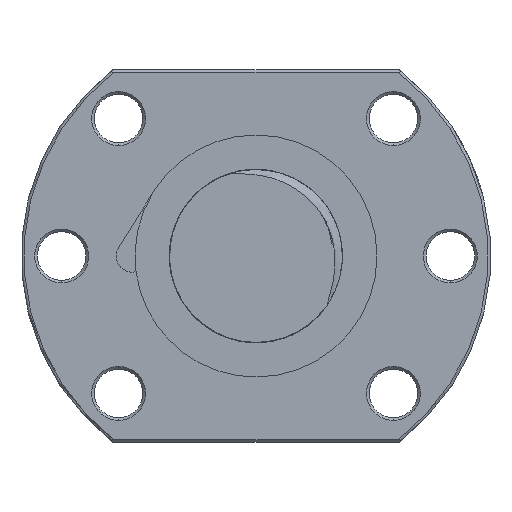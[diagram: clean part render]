
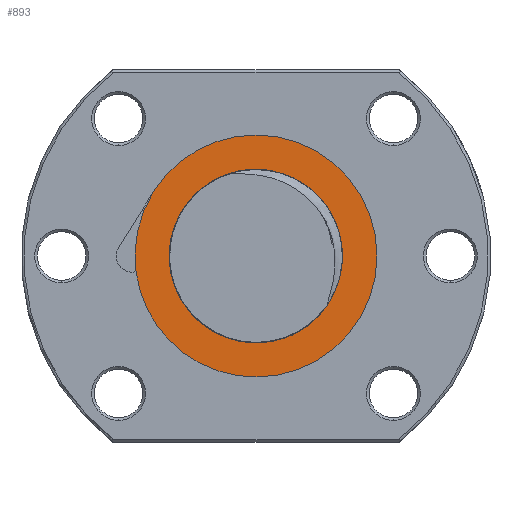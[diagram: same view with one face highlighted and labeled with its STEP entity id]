
A CAD part, left-side view. The second image highlights one B-rep face of the part: STEP entity #893.
In plain terms, the highlighted planar face has unit normal (-1, 0, 0).
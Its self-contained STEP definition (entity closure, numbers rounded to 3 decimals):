
#860 = ORIENTED_EDGE ( 'NONE', *, *, #15437, .T. ) ;
#892 = EDGE_LOOP ( 'NONE', ( #897, #901, #915, #860 ) ) ;
#893 = ADVANCED_FACE ( 'NONE', ( #17393, #17065 ), #17062, .T. ) ;
#894 = EDGE_CURVE ( 'NONE', #13481, #1001, #17350, .T. ) ;
#896 = ORIENTED_EDGE ( 'NONE', *, *, #894, .F. ) ;
#897 = ORIENTED_EDGE ( 'NONE', *, *, #917, .T. ) ;
#901 = ORIENTED_EDGE ( 'NONE', *, *, #1697, .T. ) ;
#904 = EDGE_LOOP ( 'NONE', ( #906, #896, #919 ) ) ;
#906 = ORIENTED_EDGE ( 'NONE', *, *, #1004, .F. ) ;
#915 = ORIENTED_EDGE ( 'NONE', *, *, #1737, .T. ) ;
#917 = EDGE_CURVE ( 'NONE', #15442, #1698, #17091, .T. ) ;
#919 = ORIENTED_EDGE ( 'NONE', *, *, #15215, .F. ) ;
#1001 = VERTEX_POINT ( 'NONE', #17318 ) ;
#1004 = EDGE_CURVE ( 'NONE', #1001, #15213, #17131, .T. ) ;
#1697 = EDGE_CURVE ( 'NONE', #1698, #1743, #15648, .T. ) ;
#1698 = VERTEX_POINT ( 'NONE', #15644 ) ;
#1737 = EDGE_CURVE ( 'NONE', #1743, #1747, #15512, .T. ) ;
#1743 = VERTEX_POINT ( 'NONE', #15602 ) ;
#1747 = VERTEX_POINT ( 'NONE', #15654 ) ;
#13481 = VERTEX_POINT ( 'NONE', #18627 ) ;
#15213 = VERTEX_POINT ( 'NONE', #18679 ) ;
#15215 = EDGE_CURVE ( 'NONE', #15213, #13481, #18678, .T. ) ;
#15437 = EDGE_CURVE ( 'NONE', #1747, #15442, #19017, .T. ) ;
#15442 = VERTEX_POINT ( 'NONE', #19012 ) ;
#15508 = DIRECTION ( 'NONE',  ( 0., 0., 1. ) ) ;
#15509 = DIRECTION ( 'NONE',  ( -1., 0., 0. ) ) ;
#15510 = CARTESIAN_POINT ( 'NONE',  ( -65.8, 0., 0. ) ) ;
#15511 = AXIS2_PLACEMENT_3D ( 'NONE', #15510, #15509, #15508 ) ;
#15512 = CIRCLE ( 'NONE', #15511, 22.416 ) ;
#15602 = CARTESIAN_POINT ( 'NONE',  ( -65.8, 0., -22.416 ) ) ;
#15644 = CARTESIAN_POINT ( 'NONE',  ( -65.8, 22.227, -2.904 ) ) ;
#15645 = DIRECTION ( 'NONE',  ( 0., 0., 1. ) ) ;
#15646 = DIRECTION ( 'NONE',  ( -1., 0., 0. ) ) ;
#15647 = AXIS2_PLACEMENT_3D ( 'NONE', #15651, #15646, #15645 ) ;
#15648 = CIRCLE ( 'NONE', #15647, 22.416 ) ;
#15651 = CARTESIAN_POINT ( 'NONE',  ( -65.8, 0., 0. ) ) ;
#15654 = CARTESIAN_POINT ( 'NONE',  ( -65.8, 0., 22.416 ) ) ;
#16963 = CARTESIAN_POINT ( 'NONE',  ( -65.8, 0., 0. ) ) ;
#17006 = CARTESIAN_POINT ( 'NONE',  ( -65.8, -14.466, 1.047 ) ) ;
#17008 = CARTESIAN_POINT ( 'NONE',  ( -65.8, -14.541, -0.105 ) ) ;
#17010 = CARTESIAN_POINT ( 'NONE',  ( -65.8, -14.553, -0.491 ) ) ;
#17012 = CARTESIAN_POINT ( 'NONE',  ( -65.8, -14.548, -1.267 ) ) ;
#17014 = CARTESIAN_POINT ( 'NONE',  ( -65.8, -14.532, -1.657 ) ) ;
#17038 = CARTESIAN_POINT ( 'NONE',  ( -65.8, -11.969, -10.481 ) ) ;
#17040 = CARTESIAN_POINT ( 'NONE',  ( -65.8, -11.917, -10.667 ) ) ;
#17042 = CARTESIAN_POINT ( 'NONE',  ( -65.8, -11.894, -10.761 ) ) ;
#17044 = CARTESIAN_POINT ( 'NONE',  ( -65.8, -11.887, -10.859 ) ) ;
#17057 = DIRECTION ( 'NONE',  ( 0., 0., 1. ) ) ;
#17062 = PLANE ( 'NONE',  #17250 ) ;
#17065 = FACE_OUTER_BOUND ( 'NONE', #892, .T. ) ;
#17086 = DIRECTION ( 'NONE',  ( -1., 0., 0. ) ) ;
#17088 = CARTESIAN_POINT ( 'NONE',  ( -65.8, 0., 0. ) ) ;
#17090 = AXIS2_PLACEMENT_3D ( 'NONE', #17088, #17086, #17057 ) ;
#17091 = CIRCLE ( 'NONE', #17090, 22.416 ) ;
#17112 = CARTESIAN_POINT ( 'NONE',  ( -65.8, 2.799, 15.855 ) ) ;
#17114 = CARTESIAN_POINT ( 'NONE',  ( -65.8, 2.713, 15.809 ) ) ;
#17116 = CARTESIAN_POINT ( 'NONE',  ( -65.8, 1.288, 15.51 ) ) ;
#17118 = CARTESIAN_POINT ( 'NONE',  ( -65.8, 0.903, 15.456 ) ) ;
#17120 = CARTESIAN_POINT ( 'NONE',  ( -65.8, -0.25, 15.277 ) ) ;
#17122 = CARTESIAN_POINT ( 'NONE',  ( -65.8, -1.014, 15.136 ) ) ;
#17124 = CARTESIAN_POINT ( 'NONE',  ( -65.8, -2.523, 14.768 ) ) ;
#17128 = DIRECTION ( 'NONE',  ( -1., 0., 0. ) ) ;
#17130 = AXIS2_PLACEMENT_3D ( 'NONE', #16963, #17128, #17333 ) ;
#17131 = CIRCLE ( 'NONE', #17130, 16.1 ) ;
#17184 = CARTESIAN_POINT ( 'NONE',  ( -65.8, -13.694, 4.432 ) ) ;
#17186 = CARTESIAN_POINT ( 'NONE',  ( -65.8, -13.815, 4.061 ) ) ;
#17188 = CARTESIAN_POINT ( 'NONE',  ( -65.8, -14.031, 3.315 ) ) ;
#17189 = CARTESIAN_POINT ( 'NONE',  ( -65.8, -14.124, 2.94 ) ) ;
#17191 = CARTESIAN_POINT ( 'NONE',  ( -65.8, -14.363, 1.809 ) ) ;
#17250 = AXIS2_PLACEMENT_3D ( 'NONE', #17391, #17390, #17389 ) ;
#17260 = CARTESIAN_POINT ( 'NONE',  ( -65.8, -14.386, -3.586 ) ) ;
#17262 = CARTESIAN_POINT ( 'NONE',  ( -65.8, -14.059, -5.081 ) ) ;
#17264 = CARTESIAN_POINT ( 'NONE',  ( -65.8, -13.319, -7.264 ) ) ;
#17266 = CARTESIAN_POINT ( 'NONE',  ( -65.8, -13.029, -7.983 ) ) ;
#17267 = CARTESIAN_POINT ( 'NONE',  ( -65.8, -12.563, -9.049 ) ) ;
#17272 = CARTESIAN_POINT ( 'NONE',  ( -65.8, -12.403, -9.402 ) ) ;
#17274 = CARTESIAN_POINT ( 'NONE',  ( -65.8, -12.174, -9.937 ) ) ;
#17276 = CARTESIAN_POINT ( 'NONE',  ( -65.8, -12.099, -10.116 ) ) ;
#17278 = CARTESIAN_POINT ( 'NONE',  ( -65.8, -12., -10.389 ) ) ;
#17281 = CARTESIAN_POINT ( 'NONE',  ( -65.8, -3.27, 14.541 ) ) ;
#17283 = CARTESIAN_POINT ( 'NONE',  ( -65.8, -4.714, 13.996 ) ) ;
#17285 = CARTESIAN_POINT ( 'NONE',  ( -65.8, -5.415, 13.679 ) ) ;
#17287 = CARTESIAN_POINT ( 'NONE',  ( -65.8, -6.433, 13.132 ) ) ;
#17289 = CARTESIAN_POINT ( 'NONE',  ( -65.8, -6.767, 12.938 ) ) ;
#17301 = CARTESIAN_POINT ( 'NONE',  ( -65.8, 2.621, 15.777 ) ) ;
#17303 = CARTESIAN_POINT ( 'NONE',  ( -65.8, 2.435, 15.721 ) ) ;
#17305 = CARTESIAN_POINT ( 'NONE',  ( -65.8, 2.341, 15.698 ) ) ;
#17307 = CARTESIAN_POINT ( 'NONE',  ( -65.8, 2.056, 15.635 ) ) ;
#17309 = CARTESIAN_POINT ( 'NONE',  ( -65.8, 1.864, 15.602 ) ) ;
#17318 = CARTESIAN_POINT ( 'NONE',  ( -65.8, 2.799, 15.855 ) ) ;
#17333 = DIRECTION ( 'NONE',  ( 0., 0., 1. ) ) ;
#17335 = CARTESIAN_POINT ( 'NONE',  ( -65.8, -10.875, 9.459 ) ) ;
#17337 = CARTESIAN_POINT ( 'NONE',  ( -65.8, -11.816, 8.217 ) ) ;
#17339 = CARTESIAN_POINT ( 'NONE',  ( -65.8, -12.235, 7.567 ) ) ;
#17341 = CARTESIAN_POINT ( 'NONE',  ( -65.8, -12.972, 6.22 ) ) ;
#17343 = CARTESIAN_POINT ( 'NONE',  ( -65.8, -13.291, 5.52 ) ) ;
#17350 = B_SPLINE_CURVE_WITH_KNOTS ( 'NONE', 3,
 ( #17044, #17042, #17040, #17038, #17278, #17276, #17274, #17272, #17267, #17266, #17264, #17262, #17260, #17014, #17012, #17010, #17008, #17006, #17191, #17189, #17188, #17186, #17184, #17343, #17341, #17339, #17337, #17335, #17406, #17405, #17404, #17403, #17402, #17289, #17287, #17285, #17283, #17281, #17124, #17122, #17120, #17118, #17116, #17309, #17307, #17305, #17303, #17301, #17114, #17112 ),
 .UNSPECIFIED., .F., .F.,
 ( 4, 2, 2, 2, 2, 2, 2, 2, 2, 2, 2, 2, 2, 2, 2, 2, 2, 2, 2, 2, 2, 2, 2, 2, 4 ),
 ( 0.047, 0.047, 0.047, 0.048, 0.049, 0.052, 0.056, 0.057, 0.059, 0.061, 0.062, 0.063, 0.066, 0.068, 0.07, 0.073, 0.074, 0.075, 0.078, 0.08, 0.082, 0.083, 0.084, 0.084, 0.085 ),
 .UNSPECIFIED. ) ;
#17389 = DIRECTION ( 'NONE',  ( 0., 0., 1. ) ) ;
#17390 = DIRECTION ( 'NONE',  ( -1., 0., 0. ) ) ;
#17391 = CARTESIAN_POINT ( 'NONE',  ( -65.8, 0., 16.1 ) ) ;
#17393 = FACE_BOUND ( 'NONE', #904, .T. ) ;
#17402 = CARTESIAN_POINT ( 'NONE',  ( -65.8, -7.423, 12.524 ) ) ;
#17403 = CARTESIAN_POINT ( 'NONE',  ( -65.8, -7.746, 12.304 ) ) ;
#17404 = CARTESIAN_POINT ( 'NONE',  ( -65.8, -8.683, 11.616 ) ) ;
#17405 = CARTESIAN_POINT ( 'NONE',  ( -65.8, -9.269, 11.117 ) ) ;
#17406 = CARTESIAN_POINT ( 'NONE',  ( -65.8, -10.365, 10.038 ) ) ;
#18627 = CARTESIAN_POINT ( 'NONE',  ( -65.8, -11.887, -10.859 ) ) ;
#18674 = DIRECTION ( 'NONE',  ( 0., 0., 1. ) ) ;
#18675 = DIRECTION ( 'NONE',  ( -1., 0., 0. ) ) ;
#18676 = CARTESIAN_POINT ( 'NONE',  ( -65.8, 0., 0. ) ) ;
#18677 = AXIS2_PLACEMENT_3D ( 'NONE', #18676, #18675, #18674 ) ;
#18678 = CIRCLE ( 'NONE', #18677, 16.1 ) ;
#18679 = CARTESIAN_POINT ( 'NONE',  ( -65.8, 0., -16.1 ) ) ;
#19012 = CARTESIAN_POINT ( 'NONE',  ( -65.8, 19.007, 11.882 ) ) ;
#19013 = DIRECTION ( 'NONE',  ( 0., 0., 1. ) ) ;
#19014 = DIRECTION ( 'NONE',  ( -1., 0., 0. ) ) ;
#19015 = CARTESIAN_POINT ( 'NONE',  ( -65.8, 0., 0. ) ) ;
#19016 = AXIS2_PLACEMENT_3D ( 'NONE', #19015, #19014, #19013 ) ;
#19017 = CIRCLE ( 'NONE', #19016, 22.416 ) ;
